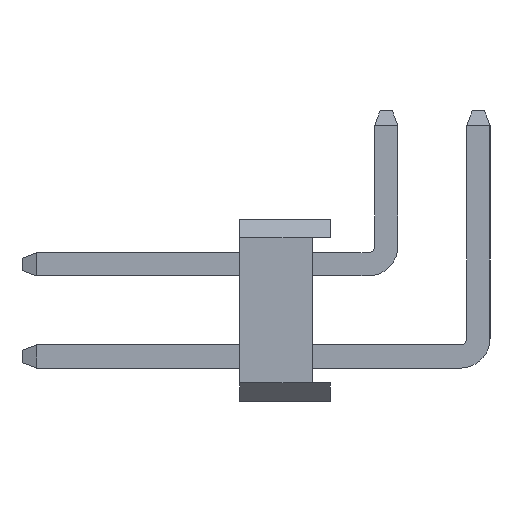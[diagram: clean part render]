
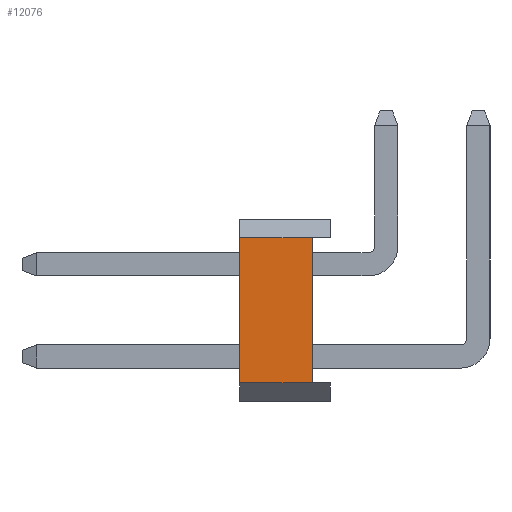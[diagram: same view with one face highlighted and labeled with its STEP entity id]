
A CAD part, left-side view. The second image highlights one B-rep face of the part: STEP entity #12076.
In plain terms, the highlighted planar face has unit normal (-1, 0, 0).
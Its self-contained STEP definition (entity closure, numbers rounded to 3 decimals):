
#1062 = CARTESIAN_POINT ( 'NONE',  ( -40.6, 6.4, 0.5 ) ) ;
#2973 = LINE ( 'NONE', #39085, #13036 ) ;
#3199 = DIRECTION ( 'NONE',  ( 0., 1., 0. ) ) ;
#3649 = CARTESIAN_POINT ( 'NONE',  ( -40.6, 8.9, 4.5 ) ) ;
#4252 = CARTESIAN_POINT ( 'NONE',  ( -40.6, 6.9, 1.5 ) ) ;
#6627 = EDGE_CURVE ( 'NONE', #31820, #20045, #15001, .T. ) ;
#8676 = VECTOR ( 'NONE', #3199, 1000. ) ;
#9058 = VERTEX_POINT ( 'NONE', #9366 ) ;
#9366 = CARTESIAN_POINT ( 'NONE',  ( -40.6, 6.9, 0.5 ) ) ;
#9934 = VECTOR ( 'NONE', #29377, 1000. ) ;
#11956 = FACE_OUTER_BOUND ( 'NONE', #29140, .T. ) ;
#12076 = ADVANCED_FACE ( 'NONE', ( #11956 ), #12554, .T. ) ;
#12554 = PLANE ( 'NONE',  #23826 ) ;
#12909 = EDGE_CURVE ( 'NONE', #9058, #34930, #37739, .T. ) ;
#13036 = VECTOR ( 'NONE', #33700, 1000. ) ;
#15001 = LINE ( 'NONE', #30353, #8676 ) ;
#15028 = ORIENTED_EDGE ( 'NONE', *, *, #6627, .T. ) ;
#16074 = ORIENTED_EDGE ( 'NONE', *, *, #12909, .F. ) ;
#16226 = DIRECTION ( 'NONE',  ( 0., 1., 0. ) ) ;
#20045 = VERTEX_POINT ( 'NONE', #3649 ) ;
#23826 = AXIS2_PLACEMENT_3D ( 'NONE', #36880, #24132, #36277 ) ;
#24132 = DIRECTION ( 'NONE',  ( -1., 0., 0. ) ) ;
#25871 = CARTESIAN_POINT ( 'NONE',  ( -40.6, 8.9, 0.5 ) ) ;
#29140 = EDGE_LOOP ( 'NONE', ( #35410, #15028, #29374, #16074 ) ) ;
#29374 = ORIENTED_EDGE ( 'NONE', *, *, #31525, .T. ) ;
#29377 = DIRECTION ( 'NONE',  ( 0., 0., 1. ) ) ;
#30353 = CARTESIAN_POINT ( 'NONE',  ( -40.6, 6.4, 4.5 ) ) ;
#31525 = EDGE_CURVE ( 'NONE', #20045, #34930, #2973, .T. ) ;
#31594 = LINE ( 'NONE', #4252, #9934 ) ;
#31820 = VERTEX_POINT ( 'NONE', #35654 ) ;
#32577 = EDGE_CURVE ( 'NONE', #9058, #31820, #31594, .T. ) ;
#33700 = DIRECTION ( 'NONE',  ( 0., 0., -1. ) ) ;
#34930 = VERTEX_POINT ( 'NONE', #25871 ) ;
#35410 = ORIENTED_EDGE ( 'NONE', *, *, #32577, .T. ) ;
#35654 = CARTESIAN_POINT ( 'NONE',  ( -40.6, 6.9, 4.5 ) ) ;
#36277 = DIRECTION ( 'NONE',  ( 0., 1., 0. ) ) ;
#36880 = CARTESIAN_POINT ( 'NONE',  ( -40.6, 6.4, 0.5 ) ) ;
#37227 = VECTOR ( 'NONE', #16226, 1000. ) ;
#37739 = LINE ( 'NONE', #1062, #37227 ) ;
#39085 = CARTESIAN_POINT ( 'NONE',  ( -40.6, 8.9, 5. ) ) ;
